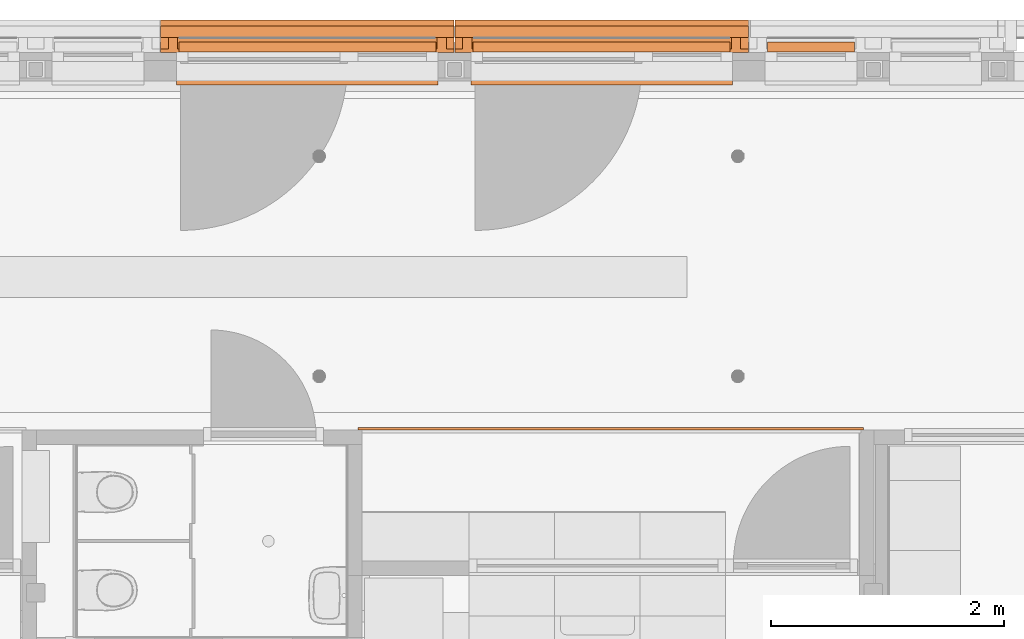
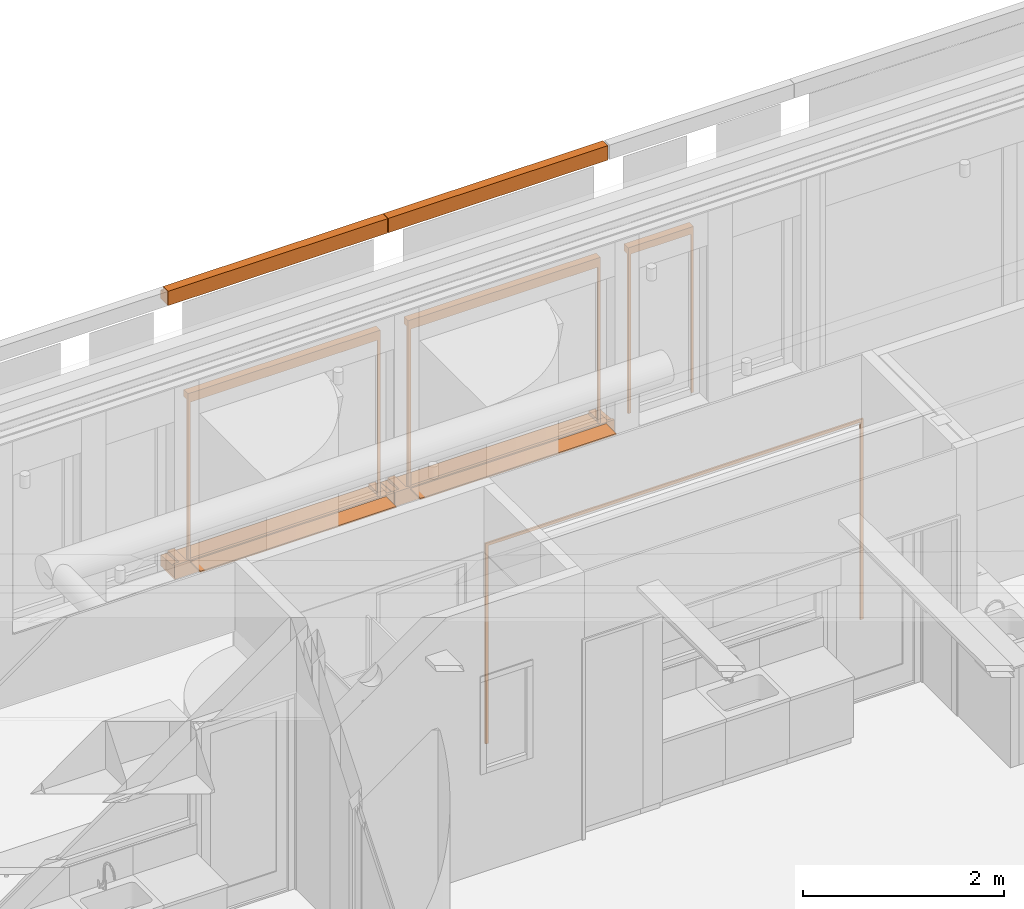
# One storey, part 119 of 128: 10 proxies.
"""IFC2X3 building model written with IfcOpenShell, lengths in millimetres."""

from ifc_helpers import new_model, entity, si_unit, converted_unit, derived_unit, direction, frame, frame_2d, origin, origin_2d_with_axis, place, context, subcontext, project, spatial, polyline, circle_curve, parameter, trimmed, segment, composite_curve, rectangle, outline, extrude, source, transform, mapped, material, material_list, type_object, type_shapes, element, save


model = new_model("IFC2X3")

# Units and contexts
model_context = context("Model", 3, precision=0.01, world=origin(), true_north=direction((6.123031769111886e-17, 1.0)))
body_context = subcontext(model_context, "Body", "Model", "MODEL_VIEW")
ifc_project = project(units=[si_unit("LENGTHUNIT", "METRE", prefix="MILLI"), si_unit("AREAUNIT", "SQUARE_METRE"), si_unit("VOLUMEUNIT", "CUBIC_METRE"), converted_unit("PLANEANGLEUNIT", "DEGREE", entity("IfcRatioMeasure", 0.017453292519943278), si_unit("PLANEANGLEUNIT", "RADIAN"), dimensions=[0, 0, 0, 0, 0, 0, 0]), si_unit("MASSUNIT", "GRAM", prefix="KILO"), derived_unit("MASSDENSITYUNIT", [(si_unit("MASSUNIT", "GRAM", prefix="KILO"), 1), (si_unit("LENGTHUNIT", "METRE"), -3)]), derived_unit("IONCONCENTRATIONUNIT", [(si_unit("MASSUNIT", "GRAM", prefix="KILO"), 1), (si_unit("LENGTHUNIT", "METRE"), -3)]), derived_unit("MOMENTOFINERTIAUNIT", [(si_unit("LENGTHUNIT", "METRE"), 4)]), si_unit("TIMEUNIT", "SECOND"), si_unit("FREQUENCYUNIT", "HERTZ"), si_unit("THERMODYNAMICTEMPERATUREUNIT", "DEGREE_CELSIUS"), derived_unit("THERMALTRANSMITTANCEUNIT", [(si_unit("MASSUNIT", "GRAM", prefix="KILO"), 1), (si_unit("THERMODYNAMICTEMPERATUREUNIT", "KELVIN"), -1), (si_unit("TIMEUNIT", "SECOND"), -3)]), derived_unit("THERMALCONDUCTANCEUNIT", [(si_unit("MASSUNIT", "GRAM", prefix="KILO"), 1), (si_unit("THERMODYNAMICTEMPERATUREUNIT", "KELVIN"), -1), (si_unit("TIMEUNIT", "SECOND"), -3), (si_unit("LENGTHUNIT", "METRE"), 1)]), derived_unit("VOLUMETRICFLOWRATEUNIT", [(si_unit("LENGTHUNIT", "METRE"), 3), (si_unit("TIMEUNIT", "SECOND"), -1)]), derived_unit("MASSFLOWRATEUNIT", [(si_unit("MASSUNIT", "GRAM", prefix="KILO"), 1), (si_unit("TIMEUNIT", "SECOND"), -1)]), derived_unit("ROTATIONALFREQUENCYUNIT", [(si_unit("TIMEUNIT", "SECOND"), -1)]), si_unit("ELECTRICCURRENTUNIT", "AMPERE"), si_unit("ELECTRICVOLTAGEUNIT", "VOLT"), si_unit("POWERUNIT", "WATT"), si_unit("FORCEUNIT", "NEWTON", prefix="KILO"), si_unit("ILLUMINANCEUNIT", "LUX"), si_unit("LUMINOUSFLUXUNIT", "LUMEN"), si_unit("LUMINOUSINTENSITYUNIT", "CANDELA"), derived_unit("USERDEFINED", [(si_unit("MASSUNIT", "GRAM", prefix="KILO"), -1), (si_unit("LENGTHUNIT", "METRE"), -2), (si_unit("TIMEUNIT", "SECOND"), 3), (si_unit("LUMINOUSFLUXUNIT", "LUMEN"), 1)]), derived_unit("USERDEFINED", [(si_unit("MASSUNIT", "GRAM", prefix="KILO"), 1), (si_unit("TIMEUNIT", "SECOND"), -3), (si_unit("LENGTHUNIT", "METRE"), 3), (si_unit("ELECTRICCURRENTUNIT", "AMPERE"), -2)]), derived_unit("SOUNDPOWERUNIT", [(si_unit("MASSUNIT", "GRAM", prefix="KILO"), 1), (si_unit("TIMEUNIT", "SECOND"), -3), (si_unit("LENGTHUNIT", "METRE"), 2)]), derived_unit("SOUNDPRESSUREUNIT", [(si_unit("MASSUNIT", "GRAM", prefix="KILO"), 1), (si_unit("LENGTHUNIT", "METRE"), -1), (si_unit("TIMEUNIT", "SECOND"), -2)]), derived_unit("LINEARVELOCITYUNIT", [(si_unit("LENGTHUNIT", "METRE"), 1), (si_unit("TIMEUNIT", "SECOND"), -1)]), si_unit("PRESSUREUNIT", "PASCAL"), derived_unit("USERDEFINED", [(si_unit("MASSUNIT", "GRAM", prefix="KILO"), 1), (si_unit("LENGTHUNIT", "METRE"), -2), (si_unit("TIMEUNIT", "SECOND"), -2)]), derived_unit("LINEARFORCEUNIT", [(si_unit("MASSUNIT", "GRAM", prefix="KILO"), 1), (si_unit("TIMEUNIT", "SECOND"), -2)]), derived_unit("PLANARFORCEUNIT", [(si_unit("MASSUNIT", "GRAM", prefix="KILO"), 1), (si_unit("LENGTHUNIT", "METRE"), -1), (si_unit("TIMEUNIT", "SECOND"), -2)]), derived_unit("SPECIFICHEATCAPACITYUNIT", [(si_unit("THERMODYNAMICTEMPERATUREUNIT", "KELVIN"), -1), (si_unit("LENGTHUNIT", "METRE"), 2), (si_unit("TIMEUNIT", "SECOND"), -2)]), derived_unit("HEATINGVALUEUNIT", [(si_unit("LENGTHUNIT", "METRE"), 2), (si_unit("TIMEUNIT", "SECOND"), -2)]), derived_unit("VAPORPERMEABILITYUNIT", [(si_unit("LENGTHUNIT", "METRE"), -1), (si_unit("TIMEUNIT", "SECOND"), 1)]), derived_unit("DYNAMICVISCOSITYUNIT", [(si_unit("MASSUNIT", "GRAM", prefix="KILO"), 1), (si_unit("TIMEUNIT", "SECOND"), -1), (si_unit("LENGTHUNIT", "METRE"), -1)]), derived_unit("THERMALEXPANSIONCOEFFICIENTUNIT", [(si_unit("THERMODYNAMICTEMPERATUREUNIT", "KELVIN"), -1)]), derived_unit("MODULUSOFELASTICITYUNIT", [(si_unit("MASSUNIT", "GRAM", prefix="KILO"), 1), (si_unit("LENGTHUNIT", "METRE"), -1), (si_unit("TIMEUNIT", "SECOND"), -2)]), derived_unit("ISOTHERMALMOISTURECAPACITYUNIT", [(si_unit("LENGTHUNIT", "METRE"), 3), (si_unit("MASSUNIT", "GRAM", prefix="KILO"), -1)]), derived_unit("MOISTUREDIFFUSIVITYUNIT", [(si_unit("TIMEUNIT", "SECOND"), -1), (si_unit("LENGTHUNIT", "METRE"), 2)])], contexts=[model_context])

# Site, building, storey
site_placement = place(None, frame((0.0, 300.0, 0.0)))
site = spatial("IfcSite", under=ifc_project, at=site_placement, Name="<Kadastrale nummers>", CompositionType="ELEMENT")
building_placement = place(site_placement, origin())
building = spatial("IfcBuilding", under=site, at=building_placement, CompositionType="ELEMENT")
storey_placement = place(building_placement, frame((0.0, 0.0, 3560.0000331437)))
storey = spatial("IfcBuildingStorey", under=building, at=storey_placement, Name="01 eerste verdieping", CompositionType="ELEMENT", Elevation=3560.0000331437)

# Proxies
ifc_material_1 = material(Name="ISR_Beton_prefab")
building_element_proxy_type_1 = type_object("IfcBuildingElementProxyType", Name="29_DAT_Prefab betonnen waterslag lang:22", PredefinedType="NOTDEFINED", material=ifc_material_1)
shared_shape_1 = source(origin(), body_context, "Body", "SweptSolid", [
    extrude(outline(polyline([(-16.052237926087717, -115.0), (26.113434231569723, -115.0), (5.9910416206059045, 115.0), (-16.052237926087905, 115.0), (-16.052237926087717, -115.0)])), frame((2377.0, 75.0, -16.05223792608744), z_axis=(1.0, 0.0, 0.0), x_axis=(0.0, 0.0, -1.0)), (0.0, 0.0, 1.0), 79.99999999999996),
    extrude(outline(polyline([(-16.052237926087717, -115.0), (26.113434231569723, -115.0), (5.9910416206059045, 115.0), (-16.052237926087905, 115.0), (-16.052237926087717, -115.0)])), frame((67.0, 75.0, -16.05223792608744), z_axis=(1.0, 0.0, 0.0), x_axis=(0.0, 0.0, -1.0)), (0.0, 0.0, 1.0), 80.00000000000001),
    extrude(outline(composite_curve([segment(polyline([(-140.0, -95.7340207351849), (-110.0, -95.7340207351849)]), True, "CONTINUOUS"), segment(polyline([(-110.0, -95.7340207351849), (-110.0, -73.7340207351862)]), True, "CONTINUOUS"), segment(polyline([(-110.0, -73.7340207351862), (140.0, -51.861854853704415)]), True, "CONTINUOUS"), segment(polyline([(140.0, -51.86185485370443), (140.0, 79.26597926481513)]), True, "CONTINUOUS"), segment(polyline([(140.0, 79.26597926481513), (115.0, 79.26597926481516)]), True, "CONTINUOUS"), segment(trimmed(circle_curve(frame_2d((110.0, 79.26597926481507), x_axis=(1.0, 0.0)), 5.000000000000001), [parameter(179.99999999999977)], [parameter(4.0711099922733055e-13)], True, "PARAMETER"), False, "CONTINUOUS"), segment(polyline([(105.0, 79.26597926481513), (-140.0, 79.26597926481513)]), True, "CONTINUOUS"), segment(polyline([(-140.0, 79.26597926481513), (-140.0, -95.7340207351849)]), True, "CONTINUOUS")], self_intersect=False)), frame((0.0, 80.0, -95.73402073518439), z_axis=(1.0, 0.0, 0.0), x_axis=(0.0, -1.0, 0.0)), (0.0, 0.0, 1.0), 2524.0000000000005),
])
type_shapes(building_element_proxy_type_1, [shared_shape_1])
for number, where, z_axis, x_axis, name in (
    (1, (30727.0, 50165.0, 890.0000018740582), (0.0, 0.0, 1.0), (-1.0, 0.0, 0.0), "29_DAT_Prefab betonnen waterslag lang:22"),
    (2, (28197.0, 50165.0, 890.0000018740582), (0.0, 0.0, 1.0), (-1.0, 0.0, 0.0), "29_DAT_Prefab betonnen waterslag lang:22"),
):
    element("IfcBuildingElementProxy", number, at=place(storey_placement, frame(where, z_axis=z_axis, x_axis=x_axis)), inside=storey, type_object=building_element_proxy_type_1, material=ifc_material_1, Name=name, ObjectType="29_DAT_Prefab betonnen waterslag lang:22", context=body_context, shape_type="MappedRepresentation", body=[
        mapped(shared_shape_1, transform((0.0, 0.0, 0.0), scale=1.0)),
    ])
ifc_material_2 = material(Name="STAAL_RAL 7006")
ifc_material_3 = material(Name="<Unnamed>")
ifc_material_list = material_list([ifc_material_2, ifc_material_3])
building_element_proxy_type_2 = type_object("IfcBuildingElementProxyType", Name="31_DAT_Screen_zonwering_bak85:31_DAT_Screen_zonwering_bak85", PredefinedType="NOTDEFINED", material=ifc_material_list)
shared_shape_2 = source(origin(), body_context, "Body", "SweptSolid", [
    extrude(outline(polyline([(-60.69864841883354, -53.573897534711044), (20.695945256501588, -53.573897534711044), (20.695945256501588, 1.1216926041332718), (22.501351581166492, 1.1216926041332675), (22.501351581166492, 24.626102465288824), (17.501351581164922, 24.626102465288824), (17.501351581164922, 27.826102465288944), (-60.69864841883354, 27.826102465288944), (-60.69864841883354, -53.573897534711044)])), frame((2208.0, -29.62610246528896, 2752.501351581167), z_axis=(1.0, 0.0, 0.0), x_axis=(0.0, 0.0, -1.0)), (0.0, 0.0, 1.0), 1.999999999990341),
    extrude(outline(polyline([(-55.83243227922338, -51.08259835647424), (29.167567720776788, -51.08259835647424), (29.167567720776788, 5.412991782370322), (27.362161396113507, 5.412991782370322), (27.362161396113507, -49.28259835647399), (-54.032432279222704, -49.28259835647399), (-54.032432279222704, 32.117401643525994), (24.16756772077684, 32.117401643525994), (24.16756772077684, 28.91740164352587), (29.167567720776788, 28.91740164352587), (29.167567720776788, 33.917401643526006), (-55.83243227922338, 33.917401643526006), (-55.83243227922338, -51.08259835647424)])), frame((0.0, -33.917401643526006, 2759.1675677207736), z_axis=(1.0, 0.0, 0.0), x_axis=(0.0, 0.0, -1.0)), (0.0, 0.0, 1.0), 2210.000000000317),
    extrude(outline(polyline([(-60.69864841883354, -53.573897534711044), (20.695945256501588, -53.573897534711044), (20.695945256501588, 1.1216926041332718), (22.501351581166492, 1.1216926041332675), (22.501351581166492, 24.626102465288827), (17.501351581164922, 24.626102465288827), (17.501351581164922, 27.826102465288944), (-60.69864841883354, 27.826102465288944), (-60.69864841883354, -53.573897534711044)])), frame((0.0, -29.62610246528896, 2752.501351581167), z_axis=(1.0, 0.0, 0.0), x_axis=(0.0, 0.0, -1.0)), (0.0, 0.0, 1.0), 1.999999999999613),
    extrude(rectangle(XDim=2170.0000000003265, YDim=1.163311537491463, at=frame_2d((1.1368683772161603e-13, -2.1094237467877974e-15), x_axis=(1.0, 0.0))), frame((1105.0, -20.037293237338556, 2723.857769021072)), (0.0, 0.0, 1.0), 6.142230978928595),
    extrude(outline(composite_curve([segment(polyline([(-7.502327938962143, -23.023758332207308), (7.497672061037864, -23.023758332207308)]), True, "CONTINUOUS"), segment(trimmed(circle_curve(frame_2d((7.497672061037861, -21.523758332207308), x_axis=(0.0, -1.0)), 1.4999999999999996), [parameter(359.99999999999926)], [parameter(90.00000000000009)], True, "PARAMETER"), True, "CONTINUOUS"), segment(polyline([(8.997672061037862, -21.523758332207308), (8.997672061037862, 8.976241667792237)]), True, "CONTINUOUS"), segment(trimmed(circle_curve(frame_2d((5.99767206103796, 8.976241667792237), x_axis=(0.0, -1.0)), 3.0), [parameter(90.00000000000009)], [parameter(172.84454900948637)], True, "PARAMETER"), True, "CONTINUOUS"), segment(polyline([(6.371357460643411, 11.952877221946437), (2.232090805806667, 12.470504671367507)]), True, "CONTINUOUS"), segment(trimmed(circle_curve(frame_2d((2.1399803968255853, 11.733933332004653), x_axis=(0.0, -1.0)), 0.7423083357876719), [parameter(172.87199730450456)], [parameter(323.5235343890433)], True, "PARAMETER"), True, "CONTINUOUS"), segment(trimmed(circle_curve(frame_2d((-0.0023279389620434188, 8.976241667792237), x_axis=(0.0, -1.0)), 2.75), [parameter(217.47327986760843)], [parameter(141.78969998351)], True, "PARAMETER"), False, "CONTINUOUS"), segment(trimmed(circle_curve(frame_2d((-2.144636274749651, 11.733933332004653), x_axis=(0.0, -1.0)), 0.7423083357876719), [parameter(39.207114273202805)], [parameter(187.12800269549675)], True, "PARAMETER"), True, "CONTINUOUS"), segment(polyline([(-2.2367466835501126, 12.470504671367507), (-6.376013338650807, 11.952877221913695)]), True, "CONTINUOUS"), segment(trimmed(circle_curve(frame_2d((-6.002327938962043, 8.976241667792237), x_axis=(0.0, -1.0)), 3.0), [parameter(187.1554509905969)], [parameter(269.9999999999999)], True, "PARAMETER"), True, "CONTINUOUS"), segment(polyline([(-9.002327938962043, 8.976241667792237), (-9.002327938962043, -21.523758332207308)]), True, "CONTINUOUS"), segment(trimmed(circle_curve(frame_2d((-7.502327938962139, -21.523758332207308), x_axis=(0.0, -1.0)), 1.5000000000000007), [parameter(269.9999999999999)], [parameter(359.9999999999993)], True, "PARAMETER"), True, "CONTINUOUS")], self_intersect=False)), frame((20.0, -19.997672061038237, 2716.8815273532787), z_axis=(1.0, 0.0, 0.0), x_axis=(0.0, 1.0, 0.0)), (0.0, 0.0, 1.0), 2170.0000000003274),
    extrude(outline(polyline([(-14.638298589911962, -16.231574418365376), (-13.138298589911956, -16.231574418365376), (-13.138298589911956, 12.23272922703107), (-6.116685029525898, 12.23272922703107), (-6.116685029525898, -6.231574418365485), (-1.1166850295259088, -6.231574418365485), (-1.1166850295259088, -4.769580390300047), (-4.579546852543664, -4.769580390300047), (-4.579546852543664, 12.23272922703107), (13.866111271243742, 12.23272922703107), (13.866111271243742, -4.769580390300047), (10.361701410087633, -4.769580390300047), (10.361701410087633, -6.2315744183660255), (15.36170141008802, -6.2315744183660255), (15.36170141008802, 13.768425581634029), (-14.638298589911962, 13.768425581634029), (-14.638298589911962, -16.231574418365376)])), frame((2196.231574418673, -14.638298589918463, 800.0), z_axis=(0.0, 0.0, 1.0), x_axis=(0.0, -1.0, 0.0)), (0.0, 0.0, 1.0), 1930.000000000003),
    extrude(outline(polyline([(-16.231574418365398, -14.638298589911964), (13.768425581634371, -14.638298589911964), (13.76842558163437, 15.361701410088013), (-6.231574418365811, 15.361701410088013), (-6.231574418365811, 10.361701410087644), (-4.769580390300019, 10.361701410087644), (-4.769580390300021, 13.866111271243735), (12.2327292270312, 13.866111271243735), (12.2327292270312, -4.57954685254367), (-4.769580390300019, -4.57954685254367), (-4.769580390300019, -1.1166850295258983), (-6.231574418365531, -1.1166850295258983), (-6.231574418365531, -6.116685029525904), (12.232729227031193, -6.116685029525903), (12.232729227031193, -13.138298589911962), (-16.231574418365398, -13.138298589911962), (-16.231574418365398, -14.638298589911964)])), frame((13.768425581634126, -14.638298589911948, 800.0), z_axis=(0.0, 0.0, 1.0), x_axis=(-1.0, 0.0, 0.0)), (0.0, 0.0, 1.0), 1930.0000000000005),
])
type_shapes(building_element_proxy_type_2, [shared_shape_2])
for number, where, z_axis, x_axis, name in (
    (3, (30570.0, 49951.0, 100.00000187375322), (0.0, 0.0, 1.0), (-1.0, 0.0, 0.0), "31_DAT_Screen_zonwering_bak85:31_DAT_Screen_zonwering_bak85"),
    (4, (28040.0, 49951.0, 100.00000187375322), (0.0, 0.0, 1.0), (-1.0, 0.0, 0.0), "31_DAT_Screen_zonwering_bak85:31_DAT_Screen_zonwering_bak85"),
):
    element("IfcBuildingElementProxy", number, at=place(storey_placement, frame(where, z_axis=z_axis, x_axis=x_axis)), inside=storey, type_object=building_element_proxy_type_2, material=ifc_material_list, Name=name, ObjectType="31_DAT_Screen_zonwering_bak85:31_DAT_Screen_zonwering_bak85", context=body_context, shape_type="MappedRepresentation", body=[
        mapped(shared_shape_2, transform((0.0, 0.0, 0.0), scale=1.0)),
    ])
building_element_proxy_type_3 = type_object("IfcBuildingElementProxyType", Name="29_DAT_Prefab betonband afgeschuind:29_DAT_Prefab betonband afgeschuind", PredefinedType="NOTDEFINED", material=ifc_material_1)
shared_shape_3 = source(origin(), body_context, "Body", "SweptSolid", [
    extrude(outline(polyline([(-94.16666666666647, -83.33333333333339), (80.83333333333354, -83.33333333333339), (80.83333333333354, 16.66666666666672), (18.33333333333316, 16.666666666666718), (8.333333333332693, 66.66666666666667), (-94.16666666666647, 66.66666666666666), (-94.16666666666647, -83.33333333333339)])), frame((0.0, 16.66666666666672, -18.33333333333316), z_axis=(1.0, 0.0, 0.0), x_axis=(0.0, 0.0, 1.0)), (0.0, 0.0, 1.0), 2524.0000000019),
])
type_shapes(building_element_proxy_type_3, [shared_shape_3])
for number, where, z_axis, x_axis, name in (
    (5, (30727.0, 50175.0, 4077.4999668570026), (0.0, 0.0, 1.0), (-1.0, 0.0, 0.0), "29_DAT_Prefab betonband afgeschuind:29_DAT_Prefab betonband afgeschuind"),
    (6, (28197.0, 50175.0, 4077.4999668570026), (0.0, 0.0, 1.0), (-1.0, 0.0, 0.0), "29_DAT_Prefab betonband afgeschuind:29_DAT_Prefab betonband afgeschuind"),
):
    element("IfcBuildingElementProxy", number, at=place(storey_placement, frame(where, z_axis=z_axis, x_axis=x_axis)), inside=storey, type_object=building_element_proxy_type_3, material=ifc_material_1, Name=name, ObjectType="29_DAT_Prefab betonband afgeschuind:29_DAT_Prefab betonband afgeschuind", context=body_context, shape_type="MappedRepresentation", body=[
        mapped(shared_shape_3, transform((0.0, 0.0, 0.0), scale=1.0)),
    ])
building_element_proxy_type_4 = type_object("IfcBuildingElementProxyType", Name="31_DAT_Screen_zonwering_bak85:31_DAT_Screen_zonwering_bak85", PredefinedType="NOTDEFINED", material=ifc_material_list)
shared_shape_4 = source(origin(), body_context, "Body", "SweptSolid", [
    extrude(outline(polyline([(-60.69864841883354, -53.573897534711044), (20.695945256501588, -53.573897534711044), (20.695945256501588, 1.1216926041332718), (22.501351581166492, 1.1216926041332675), (22.501351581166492, 24.626102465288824), (17.501351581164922, 24.626102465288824), (17.501351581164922, 27.826102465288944), (-60.69864841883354, 27.826102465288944), (-60.69864841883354, -53.573897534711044)])), frame((748.0, -29.62610246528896, 2752.501351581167), z_axis=(1.0, 0.0, 0.0), x_axis=(0.0, 0.0, -1.0)), (0.0, 0.0, 1.0), 1.9999999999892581),
    extrude(outline(polyline([(-55.83243227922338, -51.08259835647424), (29.167567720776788, -51.08259835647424), (29.167567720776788, 5.412991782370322), (27.362161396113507, 5.412991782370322), (27.362161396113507, -49.28259835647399), (-54.032432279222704, -49.28259835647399), (-54.032432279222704, 32.117401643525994), (24.16756772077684, 32.117401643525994), (24.16756772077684, 28.91740164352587), (29.167567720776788, 28.91740164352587), (29.167567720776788, 33.917401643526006), (-55.83243227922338, 33.917401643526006), (-55.83243227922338, -51.08259835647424)])), frame((0.0, -33.917401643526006, 2759.1675677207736), z_axis=(1.0, 0.0, 0.0), x_axis=(0.0, 0.0, -1.0)), (0.0, 0.0, 1.0), 749.9999999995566),
    extrude(outline(polyline([(-60.69864841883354, -53.573897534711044), (20.695945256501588, -53.573897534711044), (20.695945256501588, 1.1216926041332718), (22.501351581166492, 1.1216926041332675), (22.501351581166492, 24.626102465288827), (17.501351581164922, 24.626102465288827), (17.501351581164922, 27.826102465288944), (-60.69864841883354, 27.826102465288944), (-60.69864841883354, -53.573897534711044)])), frame((0.0, -29.62610246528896, 2752.501351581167), z_axis=(1.0, 0.0, 0.0), x_axis=(0.0, 0.0, -1.0)), (0.0, 0.0, 1.0), 1.999999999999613),
    extrude(rectangle(XDim=709.9999999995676, YDim=1.163311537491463, at=frame_2d((0.0, -2.1094237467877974e-15), x_axis=(1.0, 0.0))), frame((375.0, -20.037293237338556, 2730.0)), (0.0, 0.0, 1.0), 61.996041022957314),
    extrude(outline(composite_curve([segment(polyline([(-7.502327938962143, -23.023758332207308), (7.497672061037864, -23.023758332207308)]), True, "CONTINUOUS"), segment(trimmed(circle_curve(frame_2d((7.497672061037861, -21.523758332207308), x_axis=(0.0, -1.0)), 1.4999999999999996), [parameter(359.99999999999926)], [parameter(90.00000000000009)], True, "PARAMETER"), True, "CONTINUOUS"), segment(polyline([(8.997672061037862, -21.523758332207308), (8.997672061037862, 8.976241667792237)]), True, "CONTINUOUS"), segment(trimmed(circle_curve(frame_2d((5.99767206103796, 8.976241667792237), x_axis=(0.0, -1.0)), 3.0), [parameter(90.00000000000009)], [parameter(172.84454900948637)], True, "PARAMETER"), True, "CONTINUOUS"), segment(polyline([(6.371357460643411, 11.952877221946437), (2.232090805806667, 12.470504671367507)]), True, "CONTINUOUS"), segment(trimmed(circle_curve(frame_2d((2.1399803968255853, 11.733933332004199), x_axis=(0.0, -1.0)), 0.7423083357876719), [parameter(172.87199730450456)], [parameter(323.5235343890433)], True, "PARAMETER"), True, "CONTINUOUS"), segment(trimmed(circle_curve(frame_2d((-0.0023279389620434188, 8.976241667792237), x_axis=(0.0, -1.0)), 2.75), [parameter(217.47327986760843)], [parameter(141.78969998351)], True, "PARAMETER"), False, "CONTINUOUS"), segment(trimmed(circle_curve(frame_2d((-2.144636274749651, 11.733933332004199), x_axis=(0.0, -1.0)), 0.7423083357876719), [parameter(39.207114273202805)], [parameter(187.12800269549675)], True, "PARAMETER"), True, "CONTINUOUS"), segment(polyline([(-2.2367466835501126, 12.470504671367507), (-6.376013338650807, 11.95287722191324)]), True, "CONTINUOUS"), segment(trimmed(circle_curve(frame_2d((-6.002327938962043, 8.976241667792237), x_axis=(0.0, -1.0)), 3.0), [parameter(187.1554509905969)], [parameter(269.9999999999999)], True, "PARAMETER"), True, "CONTINUOUS"), segment(polyline([(-9.002327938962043, 8.976241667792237), (-9.002327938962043, -21.523758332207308)]), True, "CONTINUOUS"), segment(trimmed(circle_curve(frame_2d((-7.502327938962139, -21.523758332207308), x_axis=(0.0, -1.0)), 1.5000000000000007), [parameter(269.9999999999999)], [parameter(359.9999999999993)], True, "PARAMETER"), True, "CONTINUOUS")], self_intersect=False)), frame((20.0, -19.997672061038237, 2785.0197993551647), z_axis=(1.0, 0.0, 0.0), x_axis=(0.0, 1.0, 0.0)), (0.0, 0.0, 1.0), 709.9999999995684),
    extrude(outline(polyline([(-14.638298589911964, -16.231574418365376), (-13.138298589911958, -16.231574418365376), (-13.138298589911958, 12.232729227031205), (-6.116685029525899, 12.232729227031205), (-6.116685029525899, -6.231574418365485), (-1.116685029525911, -6.231574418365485), (-1.116685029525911, -4.769580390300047), (-4.579546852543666, -4.769580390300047), (-4.579546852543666, 12.23272922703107), (13.86611127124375, 12.23272922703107), (13.86611127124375, -4.769580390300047), (10.36170141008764, -4.769580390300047), (10.36170141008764, -6.2315744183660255), (15.36170141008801, -6.2315744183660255), (15.36170141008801, 13.768425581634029), (-14.638298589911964, 13.768425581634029), (-14.638298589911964, -16.231574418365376)])), frame((736.2315744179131, -14.638298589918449, 800.0), z_axis=(0.0, 0.0, 1.0), x_axis=(0.0, -1.0, 0.0)), (0.0, 0.0, 1.0), 1930.000000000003),
    extrude(outline(polyline([(-16.231574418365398, -14.638298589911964), (13.768425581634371, -14.638298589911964), (13.76842558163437, 15.361701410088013), (-6.231574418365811, 15.361701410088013), (-6.231574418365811, 10.361701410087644), (-4.769580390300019, 10.361701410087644), (-4.769580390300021, 13.866111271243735), (12.2327292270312, 13.866111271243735), (12.2327292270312, -4.57954685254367), (-4.769580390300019, -4.57954685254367), (-4.769580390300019, -1.1166850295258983), (-6.231574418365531, -1.1166850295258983), (-6.231574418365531, -6.116685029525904), (12.232729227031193, -6.116685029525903), (12.232729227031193, -13.138298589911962), (-16.231574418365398, -13.138298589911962), (-16.231574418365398, -14.638298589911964)])), frame((13.768425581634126, -14.638298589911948, 800.0), z_axis=(0.0, 0.0, 1.0), x_axis=(-1.0, 0.0, 0.0)), (0.0, 0.0, 1.0), 1930.0000000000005),
])
type_shapes(building_element_proxy_type_4, [shared_shape_4])
proxy_1_placement = place(storey_placement, frame((31640.0, 49951.0, 100.00000187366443), z_axis=(0.0, 0.0, 1.0), x_axis=(-1.0, 0.0, 0.0)))
element("IfcBuildingElementProxy", 7, at=proxy_1_placement, inside=storey, type_object=building_element_proxy_type_4, material=ifc_material_list, Name="31_DAT_Screen_zonwering_bak85:31_DAT_Screen_zonwering_bak85", ObjectType="31_DAT_Screen_zonwering_bak85:31_DAT_Screen_zonwering_bak85", context=body_context, shape_type="MappedRepresentation", body=[
    mapped(shared_shape_4, transform((0.0, 0.0, 0.0), scale=1.0)),
])

# Space
space_placement = place(storey_placement, origin())
space = spatial("IfcSpace", under=storey, at=space_placement, Name="1.11", CompositionType="ELEMENT", InteriorOrExteriorSpace="INTERNAL")

# Proxies
ifc_material_4 = material(Name="e1_natuursteen")
building_element_proxy_type_5 = type_object("IfcBuildingElementProxyType", Name="NLRS_31_GM_WPB_vensterbank natuursteen -SH_gen_ASN:200x18", PredefinedType="USERDEFINED", material=ifc_material_4)
shared_shape_5 = source(origin(), body_context, "Body", "SweptSolid", [
    extrude(rectangle(XDim=200.0, YDim=2250.000000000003, at=origin_2d_with_axis()), frame((0.0, -100.0, 0.0), z_axis=(0.0, 0.0, 1.0), x_axis=(0.0, -1.0, 0.0)), (0.0, 0.0, 1.0), 17.999999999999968),
])
type_shapes(building_element_proxy_type_5, [shared_shape_5])
for number, where, z_axis, x_axis, name in (
    (8, (29465.0, 49668.0, 920.0000018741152), (0.0, 0.0, 1.0), (-1.0, 0.0, 0.0), "NLRS_31_GM_WPB_vensterbank natuursteen -SH_gen_ASN:200x18"),
    (9, (26935.0, 49668.0, 920.0000018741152), (0.0, 0.0, 1.0), (-1.0, 0.0, 0.0), "NLRS_31_GM_WPB_vensterbank natuursteen -SH_gen_ASN:200x18"),
):
    element("IfcBuildingElementProxy", number, at=place(space_placement, frame(where, z_axis=z_axis, x_axis=x_axis)), inside=space, type_object=building_element_proxy_type_5, material=ifc_material_4, Name=name, ObjectType="NLRS_31_GM_WPB_vensterbank natuursteen -SH_gen_ASN:200x18", context=body_context, shape_type="MappedRepresentation", body=[
        mapped(shared_shape_5, transform((0.0, 0.0, 0.0), scale=1.0)),
    ])
ifc_material_5 = material(Name="ISR_HPL Kleur hout")
building_element_proxy_type_6 = type_object("IfcBuildingElementProxyType", Name="82_DAT_Trimlat om element:82_DAT_Trimlat om element", PredefinedType="NOTDEFINED", material=ifc_material_5)
shared_shape_6 = source(origin(), body_context, "Body", "SweptSolid", [
    extrude(rectangle(XDim=19.999999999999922, YDim=34.99999999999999, at=origin_2d_with_axis()), frame((-17.500000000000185, -10.0, 0.0), z_axis=(0.0, 0.0, 1.0), x_axis=(0.0, 1.0, 0.0)), (0.0, 0.0, 1.0), 2400.000000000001),
    extrude(rectangle(XDim=20.000000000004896, YDim=34.99999999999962, at=frame_2d((0.0, -5.400124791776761e-13), x_axis=(1.0, 0.0))), frame((4292.49999999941, -10.0, 0.0), z_axis=(0.0, 0.0, 1.0), x_axis=(0.0, 1.0, 0.0)), (0.0, 0.0, 1.0), 2400.000000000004),
    extrude(rectangle(XDim=19.99999999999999, YDim=4344.999999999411, at=frame_2d((0.0, -2.2737367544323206e-13), x_axis=(1.0, 0.0))), frame((2137.499999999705, -10.0, 2400.0), z_axis=(0.0, 0.0, 1.0), x_axis=(0.0, 1.0, 0.0)), (0.0, 0.0, 1.0), 34.99999999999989),
])
type_shapes(building_element_proxy_type_6, [shared_shape_6])
proxy_2_placement = place(space_placement, frame((31680.0, 46700.0, 90.00000187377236), z_axis=(0.0, 0.0, 1.0), x_axis=(-1.0, 0.0, 0.0)))
element("IfcBuildingElementProxy", 10, at=proxy_2_placement, inside=space, type_object=building_element_proxy_type_6, material=ifc_material_5, Name="82_DAT_Trimlat om element:82_DAT_Trimlat om element", ObjectType="82_DAT_Trimlat om element:82_DAT_Trimlat om element", context=body_context, shape_type="MappedRepresentation", body=[
    mapped(shared_shape_6, transform((0.0, 0.0, 0.0), scale=1.0)),
])

save(model, "model.ifc")
